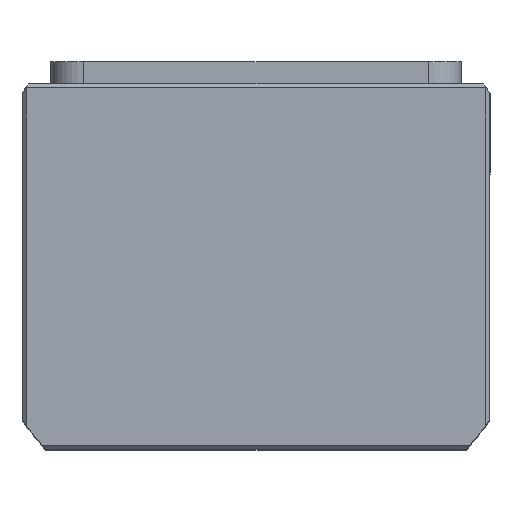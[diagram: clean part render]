
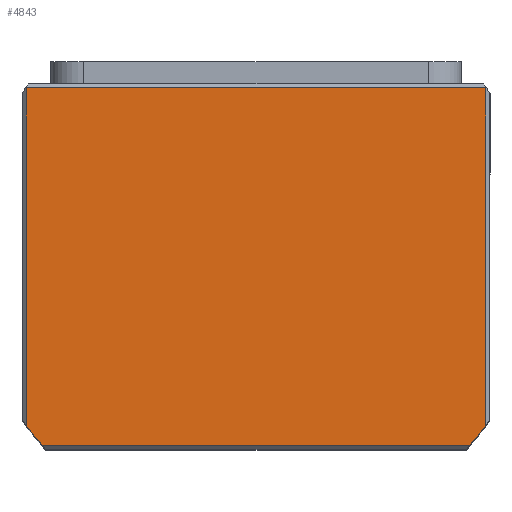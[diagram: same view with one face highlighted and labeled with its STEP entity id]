
A CAD part, top view. The second image highlights one B-rep face of the part: STEP entity #4843.
In plain terms, the highlighted planar face has unit normal (0, 0, 1) as drawn and (0, 0, -1) by its records, which use the part's own axes.
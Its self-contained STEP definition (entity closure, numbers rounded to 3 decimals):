
#147 = VECTOR ( 'NONE', #12554, 1000. ) ;
#1412 = EDGE_CURVE ( 'NONE', #16969, #10629, #18994, .T. ) ;
#1539 = CARTESIAN_POINT ( 'NONE',  ( -56., 38.661, 0. ) ) ;
#1706 = VECTOR ( 'NONE', #9400, 1000. ) ;
#2529 = ORIENTED_EDGE ( 'NONE', *, *, #10912, .F. ) ;
#2567 = VERTEX_POINT ( 'NONE', #5003 ) ;
#3604 = CARTESIAN_POINT ( 'NONE',  ( 52.098, 43.5, 0. ) ) ;
#4251 = VERTEX_POINT ( 'NONE', #3604 ) ;
#4843 = ADVANCED_FACE ( 'NONE', ( #20557 ), #21299, .F. ) ;
#5003 = CARTESIAN_POINT ( 'NONE',  ( 56., 38.661, 0. ) ) ;
#5072 = AXIS2_PLACEMENT_3D ( 'NONE', #20613, #9656, #22455 ) ;
#5200 = CARTESIAN_POINT ( 'NONE',  ( 0., 43.5, 0. ) ) ;
#6260 = CARTESIAN_POINT ( 'NONE',  ( 0., -2.5, 0. ) ) ;
#6289 = DIRECTION ( 'NONE',  ( 0., 0., 1. ) ) ;
#6337 = DIRECTION ( 'NONE',  ( 1., 0., 0. ) ) ;
#7793 = ORIENTED_EDGE ( 'NONE', *, *, #17378, .T. ) ;
#8259 = AXIS2_PLACEMENT_3D ( 'NONE', #6260, #6289, #6337 ) ;
#9121 = CARTESIAN_POINT ( 'NONE',  ( -52.098, 43.5, 0. ) ) ;
#9400 = DIRECTION ( 'NONE',  ( 0., 1., 0. ) ) ;
#9543 = ORIENTED_EDGE ( 'NONE', *, *, #15267, .T. ) ;
#9656 = DIRECTION ( 'NONE',  ( 0., 0., 1. ) ) ;
#9816 = ORIENTED_EDGE ( 'NONE', *, *, #1412, .F. ) ;
#10119 = CARTESIAN_POINT ( 'NONE',  ( 56., 0., 0. ) ) ;
#10310 = LINE ( 'NONE', #22195, #1706 ) ;
#10629 = VERTEX_POINT ( 'NONE', #1539 ) ;
#10912 = EDGE_CURVE ( 'NONE', #2567, #4251, #22803, .T. ) ;
#11643 = ORIENTED_EDGE ( 'NONE', *, *, #19507, .T. ) ;
#12113 = VERTEX_POINT ( 'NONE', #18821 ) ;
#12287 = VECTOR ( 'NONE', #23531, 1000. ) ;
#12358 = AXIS2_PLACEMENT_3D ( 'NONE', #21277, #21228, #21200 ) ;
#12554 = DIRECTION ( 'NONE',  ( 1., 0., 0. ) ) ;
#13969 = LINE ( 'NONE', #10119, #18243 ) ;
#15267 = EDGE_CURVE ( 'NONE', #19967, #10629, #10310, .T. ) ;
#16765 = EDGE_LOOP ( 'NONE', ( #2529, #11643, #7793, #9543, #9816, #23268 ) ) ;
#16969 = VERTEX_POINT ( 'NONE', #9121 ) ;
#17378 = EDGE_CURVE ( 'NONE', #12113, #19967, #23745, .T. ) ;
#18243 = VECTOR ( 'NONE', #22923, 1000. ) ;
#18249 = CARTESIAN_POINT ( 'NONE',  ( -56., -43.5, 0. ) ) ;
#18821 = CARTESIAN_POINT ( 'NONE',  ( 56., -43.5, 0. ) ) ;
#18994 = CIRCLE ( 'NONE', #8259, 69.5 ) ;
#19507 = EDGE_CURVE ( 'NONE', #2567, #12113, #13969, .T. ) ;
#19623 = LINE ( 'NONE', #5200, #147 ) ;
#19839 = CARTESIAN_POINT ( 'NONE',  ( 0., -43.5, 0. ) ) ;
#19967 = VERTEX_POINT ( 'NONE', #18249 ) ;
#20557 = FACE_OUTER_BOUND ( 'NONE', #16765, .T. ) ;
#20613 = CARTESIAN_POINT ( 'NONE',  ( 0., -2.5, 0. ) ) ;
#21200 = DIRECTION ( 'NONE',  ( 1., 0., 0. ) ) ;
#21228 = DIRECTION ( 'NONE',  ( 0., 0., 1. ) ) ;
#21277 = CARTESIAN_POINT ( 'NONE',  ( 0., 0., 0. ) ) ;
#21299 = PLANE ( 'NONE',  #12358 ) ;
#22195 = CARTESIAN_POINT ( 'NONE',  ( -56., 0., 0. ) ) ;
#22455 = DIRECTION ( 'NONE',  ( 1., 0., 0. ) ) ;
#22803 = CIRCLE ( 'NONE', #5072, 69.5 ) ;
#22923 = DIRECTION ( 'NONE',  ( 0., -1., 0. ) ) ;
#23054 = EDGE_CURVE ( 'NONE', #16969, #4251, #19623, .T. ) ;
#23268 = ORIENTED_EDGE ( 'NONE', *, *, #23054, .T. ) ;
#23531 = DIRECTION ( 'NONE',  ( -1., 0., 0. ) ) ;
#23745 = LINE ( 'NONE', #19839, #12287 ) ;
